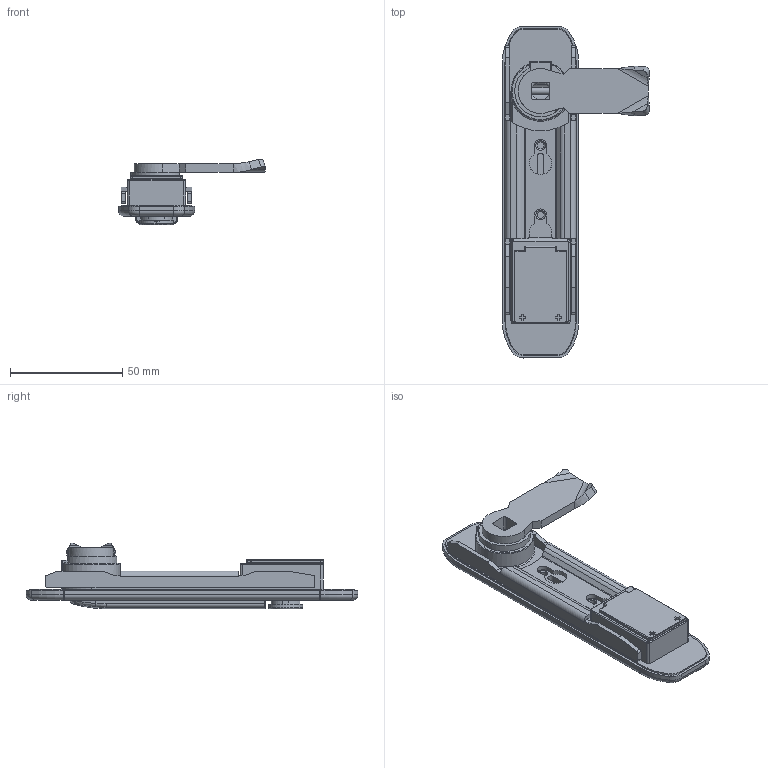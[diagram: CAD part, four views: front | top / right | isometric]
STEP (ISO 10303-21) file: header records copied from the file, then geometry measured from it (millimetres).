
FILE_DESCRIPTION((''),'2;1');
FILE_NAME('3SJ_MS738-1A_0003_ASM','2016-07-18T',('Administrator'),(''),'PRO/ENGINEER BY PARAMETRIC TECHNOLOGY CORPORATION, 2009060','PRO/ENGINEER BY PARAMETRIC TECHNOLOGY CORPORATION, 2009060','');
FILE_SCHEMA(('CONFIG_CONTROL_DESIGN'));
Products named in the file (1): 3SJ_MS738-1A_0003_ASM
Bounding box: 65.58 x 148 x 29.4 mm (x, y, z)
Volume: 45365 mm3; surface area: 36815.6 mm2
Topology: 4 solids, 6 shells, 1111 faces, 2750 edges, 1656 vertices
Faces by surface type: plane 466, cylinder 353, bspline 124, torus 109, sphere 31, cone 26, extrusion 2
Entity records: 48522 total; most frequent: CARTESIAN_POINT 22803, ORIENTED_EDGE 5500, DIRECTION 5216, EDGE_CURVE 2750, AXIS2_PLACEMENT_3D 1852, VERTEX_POINT 1656, VECTOR 1512, LINE 1510
